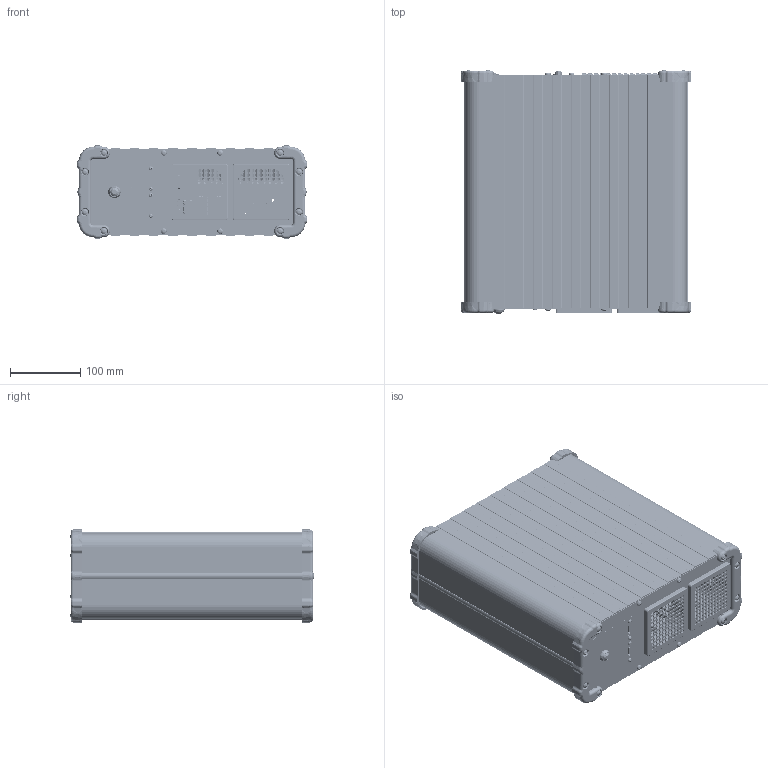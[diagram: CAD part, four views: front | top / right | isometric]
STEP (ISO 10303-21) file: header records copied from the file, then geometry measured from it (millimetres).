
FILE_DESCRIPTION(/* description */ (''),/* implementation_level */ '2;1');
FILE_NAME(/* name */ 'CONTROLLER.stp',/* time_stamp */ '2021-04-07T09:55:29+01:00',/* author */ (''),/* organization */ (''),/* preprocessor_version */ 'ST-DEVELOPER v16.7',/* originating_system */ 'SIEMENS PLM Software NX 1942',/* authorisation */ '');
FILE_SCHEMA (('AUTOMOTIVE_DESIGN { 1 0 10303 214 3 1 1 1 }'));
Products named in the file (1): jh143A4813586p59
Bounding box: 327.31 x 345.26 x 132.35 mm (x, y, z)
Volume: 2317339 mm3; surface area: 1213329.1 mm2
Topology: 89 solids, 89 shells, 22813 faces, 64848 edges, 41538 vertices
Faces by surface type: plane 14750, cylinder 5497, bspline 914, cone 653, torus 559, sphere 277, extrusion 157, revolution 6
Full cylindrical faces by diameter (mm): 0.68 x28, 1.01 x9, 1.08 x56, 1.1 x8, 1.2 x8, 1.5 x28, 1.524 x4, 1.6 x8, 2.156 x2, 2.35 x4, 2.4 x4, 2.667 x8, 2.845 x4, 2.85 x2, 2.874 x4, 3 x2, 3.048 x2, 3.1 x4, 3.2 x2, 3.302 x2, 3.4 x4, 3.485 x2, 3.5 x1, 3.6 x3, 3.8 x2, 3.9 x4, 4 x46, 4.1 x2, 4.15 x16, 4.3 x2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
Entity records: 901168 total; most frequent: CARTESIAN_POINT 195612, ORIENTED_EDGE 126150, DIRECTION 115296, EDGE_CURVE 63075, VECTOR 46600, LINE 46443, VERTEX_POINT 41032, AXIS2_PLACEMENT_3D 34345
